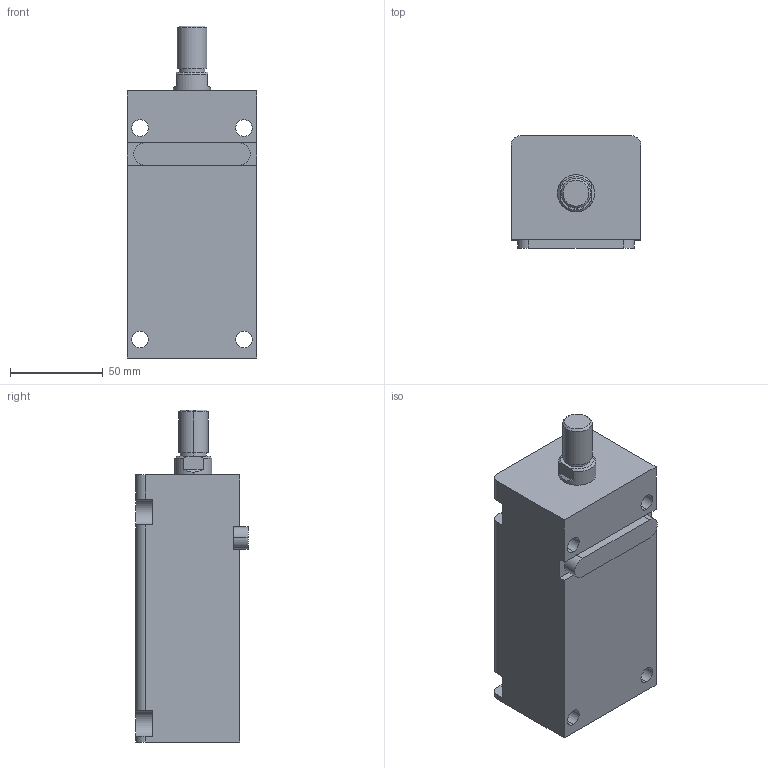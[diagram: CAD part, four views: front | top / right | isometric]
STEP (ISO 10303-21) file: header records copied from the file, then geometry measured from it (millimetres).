
FILE_DESCRIPTION (( 'STEP AP203' ), '1' );
FILE_NAME ('HTB-LA32-90W.STEP', '2019-10-09T06:32:21', ( '微软用户' ), ( '微软中国' ), 'SwSTEP 2.0', 'SolidWorks 2012', '' );
FILE_SCHEMA (( 'CONFIG_CONTROL_DESIGN' ));
Length unit declared in the file: millimetre
Products named in the file (4): HTB-LA32-90掛极; HTB-LA32-90W; HTB-LA32-瑩; HTB-LA32-90W活塞杆
Assembly tree (3 placements, depth 2):
  HTB-LA32-90W
    HTB-LA32-90掛极
    HTB-LA32-90W活塞杆
    HTB-LA32-瑩
Bounding box: 70 x 60.5 x 179 mm (x, y, z)
Volume: 509588.1 mm3; surface area: 78810.3 mm2
Topology: 3 solids, 3 shells, 92 faces, 223 edges, 146 vertices
Faces by surface type: plane 41, cylinder 37, cone 8, torus 6
Entity records: 3159 total; most frequent: DIRECTION 509, CARTESIAN_POINT 495, ORIENTED_EDGE 446, EDGE_CURVE 223, AXIS2_PLACEMENT_3D 196, VERTEX_POINT 146, LINE 117, VECTOR 117
